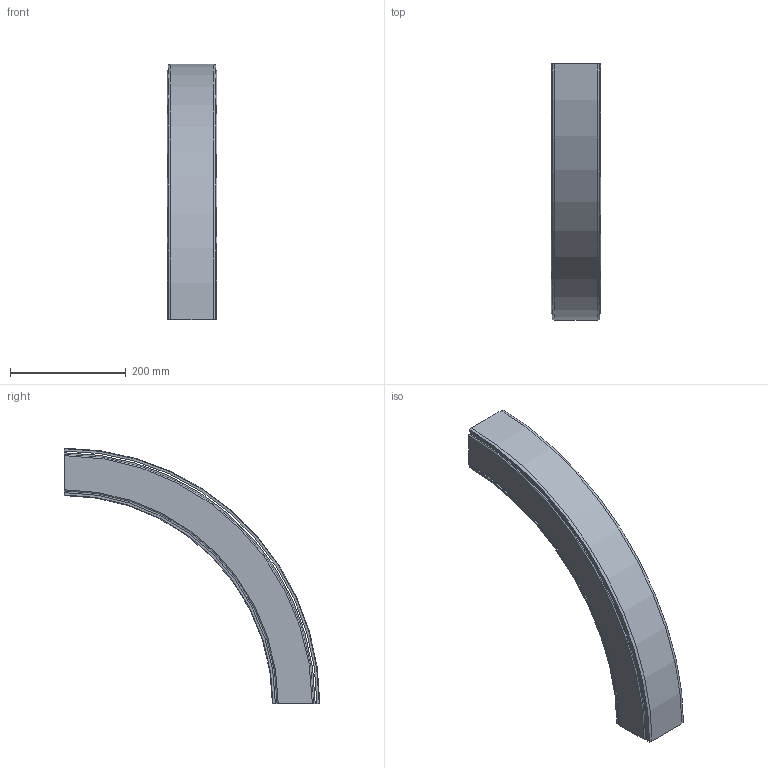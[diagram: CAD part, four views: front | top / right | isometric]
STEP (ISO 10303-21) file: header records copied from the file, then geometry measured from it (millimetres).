
FILE_DESCRIPTION((''),'2;1');
FILE_NAME('C:\Vault Klient\Projekt\Koncept konstruktion\Serie 530 Balk\530-5640_UP.stp','2010-11-23T12:39:40',('Mathias'),(''),'Autodesk Inventor 2011','Autodesk Inventor 2011','');
FILE_SCHEMA(('AUTOMOTIVE_DESIGN { 1 0 10303 214 1 1 1 1 }'));
Length unit declared in the file: millimetre
Products named in the file (1): 530-5640_UP
Bounding box: 86 x 442.5 x 442.5 mm (x, y, z)
Volume: 934707.5 mm3; surface area: 458245.7 mm2
Topology: 2 solids, 2 shells, 87 faces, 234 edges, 156 vertices
Faces by surface type: plane 40, cylinder 25, bspline 14, cone 4, torus 4
Entity records: 3141 total; most frequent: CARTESIAN_POINT 903, ORIENTED_EDGE 468, DIRECTION 428, EDGE_CURVE 234, VERTEX_POINT 156, AXIS2_PLACEMENT_3D 148, VECTOR 132, LINE 132
